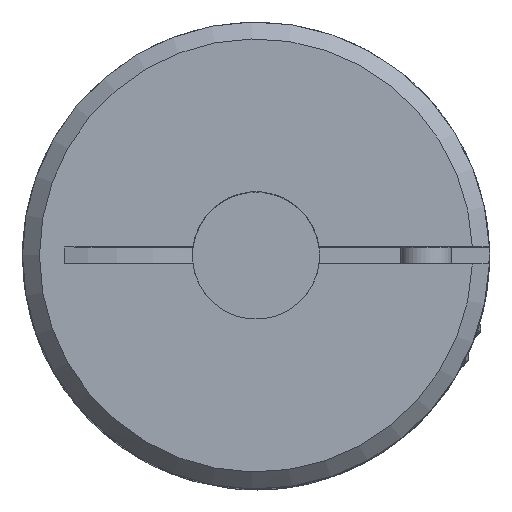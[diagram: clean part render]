
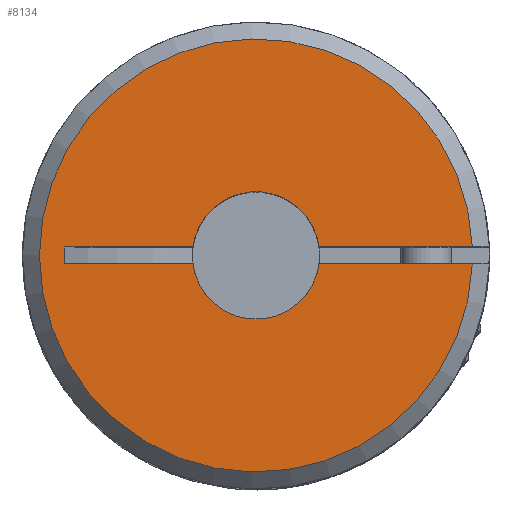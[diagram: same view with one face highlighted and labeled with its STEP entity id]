
A CAD part, top view. The second image highlights one B-rep face of the part: STEP entity #8134.
In plain terms, the highlighted planar face has unit normal (0, 0, 1).
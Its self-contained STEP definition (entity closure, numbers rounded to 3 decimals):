
#58=CARTESIAN_POINT('',(0.,0.,39.));
#59=DIRECTION('',(0.,0.,-1.));
#60=DIRECTION('',(-0.991,0.133,0.));
#61=AXIS2_PLACEMENT_3D('',#58,#59,#60);
#63=DIRECTION('',(1.,0.,0.));
#64=VECTOR('',#63,15.067);
#65=CARTESIAN_POINT('',(-22.5,1.,39.));
#66=LINE('',#65,#64);
#67=DIRECTION('',(0.,-1.,0.));
#68=VECTOR('',#67,2.);
#69=CARTESIAN_POINT('',(-22.5,1.,39.));
#70=LINE('',#69,#68);
#71=DIRECTION('',(1.,0.,0.));
#72=VECTOR('',#71,15.067);
#73=CARTESIAN_POINT('',(-22.5,-1.,39.));
#74=LINE('',#73,#72);
#75=CARTESIAN_POINT('',(0.,0.,39.));
#76=DIRECTION('',(0.,0.,-1.));
#77=DIRECTION('',(0.991,-0.133,0.));
#78=AXIS2_PLACEMENT_3D('',#75,#76,#77);
#80=DIRECTION('',(1.,0.,0.));
#81=VECTOR('',#80,18.047);
#82=CARTESIAN_POINT('',(7.433,-1.,39.));
#83=LINE('',#82,#81);
#84=DIRECTION('',(1.,0.,0.));
#85=VECTOR('',#84,18.047);
#86=CARTESIAN_POINT('',(7.433,1.,39.));
#87=LINE('',#86,#85);
#191=CARTESIAN_POINT('',(0.,0.,39.));
#192=DIRECTION('',(0.,0.,1.));
#193=DIRECTION('',(0.999,0.039,0.));
#194=AXIS2_PLACEMENT_3D('',#191,#192,#193);
#201=CARTESIAN_POINT('',(25.48,-1.,39.));
#203=CARTESIAN_POINT('',(25.48,1.,39.));
#6683=CARTESIAN_POINT('',(-22.5,1.,39.));
#6684=CARTESIAN_POINT('',(-22.5,-1.,39.));
#6685=VERTEX_POINT('',#6683);
#6686=VERTEX_POINT('',#6684);
#6687=VERTEX_POINT('',#203);
#6690=VERTEX_POINT('',#201);
#6805=CARTESIAN_POINT('',(-7.433,1.,39.));
#6806=CARTESIAN_POINT('',(7.433,1.,39.));
#6807=VERTEX_POINT('',#6805);
#6808=VERTEX_POINT('',#6806);
#6809=CARTESIAN_POINT('',(7.433,-1.,39.));
#6810=CARTESIAN_POINT('',(-7.433,-1.,39.));
#6811=VERTEX_POINT('',#6809);
#6812=VERTEX_POINT('',#6810);
#8111=CARTESIAN_POINT('',(0.,0.,39.));
#8112=DIRECTION('',(0.,0.,-1.));
#8113=DIRECTION('',(1.,0.,0.));
#8114=AXIS2_PLACEMENT_3D('',#8111,#8112,#8113);
#8115=PLANE('',#8114);
#8117=ORIENTED_EDGE('',*,*,#8116,.F.);
#8119=ORIENTED_EDGE('',*,*,#8118,.F.);
#8121=ORIENTED_EDGE('',*,*,#8120,.T.);
#8123=ORIENTED_EDGE('',*,*,#8122,.T.);
#8125=ORIENTED_EDGE('',*,*,#8124,.F.);
#8127=ORIENTED_EDGE('',*,*,#8126,.T.);
#8129=ORIENTED_EDGE('',*,*,#8128,.F.);
#8131=ORIENTED_EDGE('',*,*,#8130,.F.);
#8132=EDGE_LOOP('',(#8117,#8119,#8121,#8123,#8125,#8127,#8129,#8131));
#8133=FACE_OUTER_BOUND('',#8132,.F.);
#8134=ADVANCED_FACE('',(#8133),#8115,.F.);
#62=CIRCLE('',#61,7.5);
#79=CIRCLE('',#78,7.5);
#195=CIRCLE('',#194,25.5);
#8116=EDGE_CURVE('',#6807,#6808,#62,.T.);
#8118=EDGE_CURVE('',#6685,#6807,#66,.T.);
#8120=EDGE_CURVE('',#6685,#6686,#70,.T.);
#8122=EDGE_CURVE('',#6686,#6812,#74,.T.);
#8124=EDGE_CURVE('',#6811,#6812,#79,.T.);
#8126=EDGE_CURVE('',#6811,#6690,#83,.T.);
#8128=EDGE_CURVE('',#6687,#6690,#195,.T.);
#8130=EDGE_CURVE('',#6808,#6687,#87,.T.);
